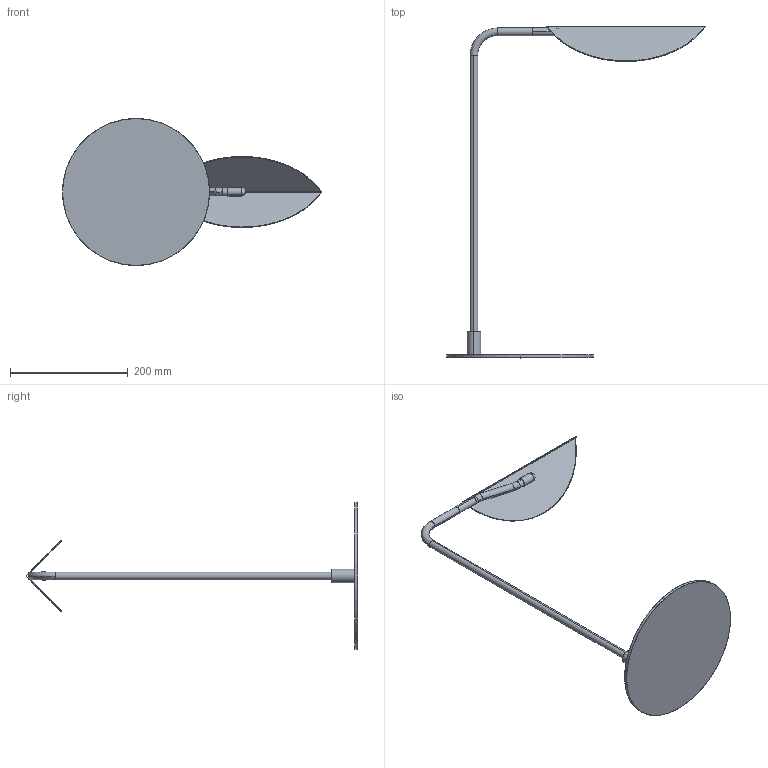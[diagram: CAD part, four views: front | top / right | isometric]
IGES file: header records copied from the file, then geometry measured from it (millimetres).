
Start section: SolidWorks IGES file using analytic representation for surfaces
Global section: file name: C:\Users\Agus\Desktop\AROMAS\Propuestas Aromas 2017\Propuesta Pepe\OK\Tulipa ficus\Nueva Tulipa\S\SOBREMESA\S1243.IGS; native system: SolidWorks 2016; preprocessor: SolidWorks 2016; author: Agus; date: 180403.173610; units: millimetre
Bounding box: 440.47 x 564.89 x 250 mm (x, y, z)
Surface area: 207192.3 mm2 (no closed solid volume)
Topology: 0 solids, 0 shells, 52 faces, 772 edges, 771 vertices
Faces by surface type: revolution 27, bspline 25
